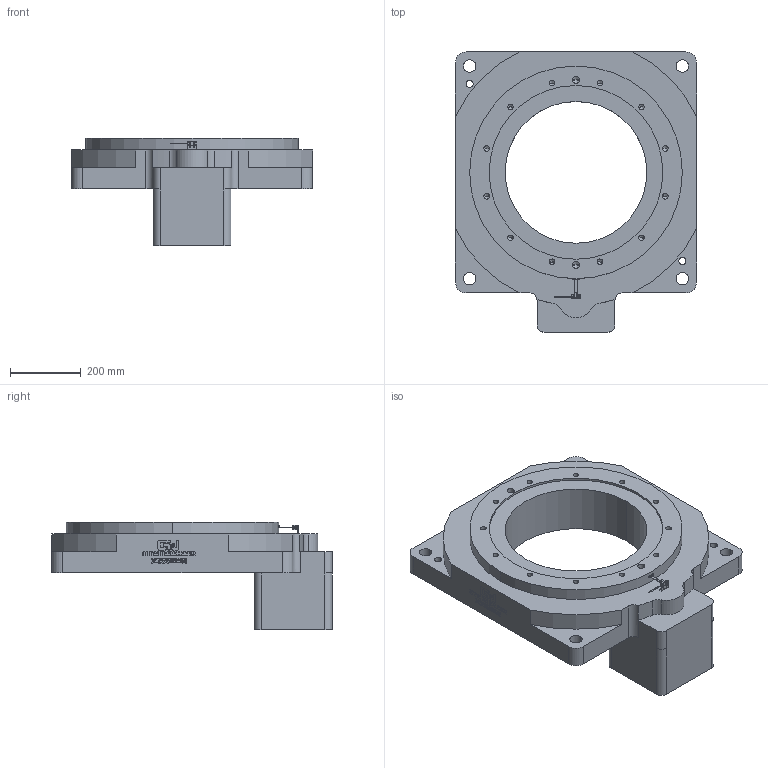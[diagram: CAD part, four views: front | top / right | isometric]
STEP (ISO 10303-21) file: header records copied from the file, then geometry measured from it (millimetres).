
FILE_DESCRIPTION (( 'STEP AP214' ), '1' );
FILE_NAME ('GT680-C-10-55-160-215-M14-2.STEP', '2024-07-05T03:44:33', ( '' ), ( '' ), 'SwSTEP 2.0', 'SolidWorks 2021', '' );
FILE_SCHEMA (( 'AUTOMOTIVE_DESIGN' ));
Length unit declared in the file: millimetre
Products named in the file (1): GT680-C-10-55-160-215-M14-2
Bounding box: 680 x 790.2 x 303 mm (x, y, z)
Volume: 47904598.9 mm3; surface area: 1471128.4 mm2
Topology: 4 solids, 6 shells, 774 faces, 2102 edges, 1368 vertices
Faces by surface type: plane 532, cylinder 123, bspline 79, cone 40
Entity records: 27731 total; most frequent: CARTESIAN_POINT 5604, ORIENTED_EDGE 4124, DIRECTION 3522, EDGE_CURVE 2062, LINE 1638, VECTOR 1638, VERTEX_POINT 1368, AXIS2_PLACEMENT_3D 942
